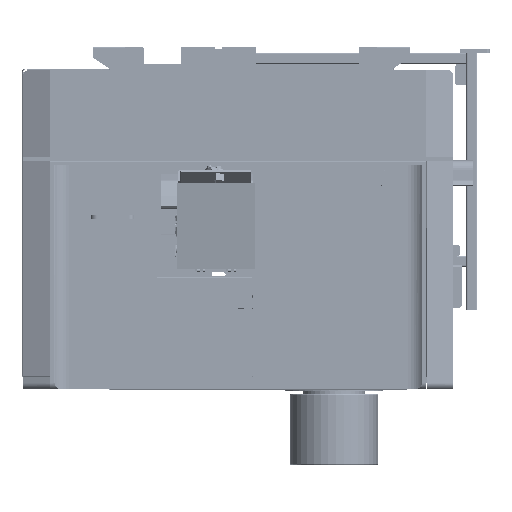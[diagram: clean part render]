
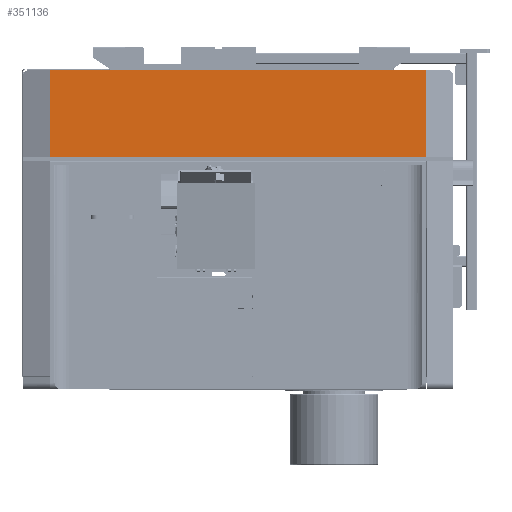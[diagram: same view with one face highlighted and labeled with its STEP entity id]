
A CAD part, left-side view. The second image highlights one B-rep face of the part: STEP entity #351136.
In plain terms, the highlighted planar face has unit normal (-1, 0, 0).
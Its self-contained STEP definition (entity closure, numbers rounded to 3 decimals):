
#6051 = AXIS2_PLACEMENT_3D ( 'NONE', #317004, #74918, #225260 ) ;
#35367 = CARTESIAN_POINT ( 'NONE',  ( -44.227, 23.17, 106.876 ) ) ;
#39056 = CARTESIAN_POINT ( 'NONE',  ( -44.227, 23.17, 106.876 ) ) ;
#51394 = CARTESIAN_POINT ( 'NONE',  ( -44.227, -45.437, 122.782 ) ) ;
#63590 = ORIENTED_EDGE ( 'NONE', *, *, #202055, .F. ) ;
#68370 = VECTOR ( 'NONE', #332251, 39.37 ) ;
#74918 = DIRECTION ( 'NONE',  ( 1., 0., 0. ) ) ;
#76894 = DIRECTION ( 'NONE',  ( 0., 1., 0. ) ) ;
#81458 = LINE ( 'NONE', #321637, #107771 ) ;
#86359 = EDGE_CURVE ( 'NONE', #371576, #150799, #256495, .T. ) ;
#98614 = ORIENTED_EDGE ( 'NONE', *, *, #369594, .F. ) ;
#107771 = VECTOR ( 'NONE', #384200, 39.37 ) ;
#140539 = EDGE_CURVE ( 'NONE', #145919, #371576, #293198, .T. ) ;
#142075 = CARTESIAN_POINT ( 'NONE',  ( -44.227, -45.422, 106.876 ) ) ;
#145919 = VERTEX_POINT ( 'NONE', #142075 ) ;
#150634 = DIRECTION ( 'NONE',  ( 0., 0., 1. ) ) ;
#150799 = VERTEX_POINT ( 'NONE', #244081 ) ;
#164832 = FACE_OUTER_BOUND ( 'NONE', #174723, .T. ) ;
#168437 = LINE ( 'NONE', #35367, #68370 ) ;
#170221 = VERTEX_POINT ( 'NONE', #39056 ) ;
#174164 = CARTESIAN_POINT ( 'NONE',  ( -44.227, -45.422, 106.876 ) ) ;
#174723 = EDGE_LOOP ( 'NONE', ( #322674, #63590, #98614, #346995 ) ) ;
#190258 = PLANE ( 'NONE',  #6051 ) ;
#202055 = EDGE_CURVE ( 'NONE', #170221, #150799, #168437, .T. ) ;
#209460 = CARTESIAN_POINT ( 'NONE',  ( -44.227, -45.422, 122.782 ) ) ;
#225260 = DIRECTION ( 'NONE',  ( 0., -1., 0. ) ) ;
#244081 = CARTESIAN_POINT ( 'NONE',  ( -44.227, 23.17, 122.782 ) ) ;
#256495 = LINE ( 'NONE', #51394, #295327 ) ;
#282859 = VECTOR ( 'NONE', #150634, 39.37 ) ;
#293198 = LINE ( 'NONE', #174164, #282859 ) ;
#295327 = VECTOR ( 'NONE', #76894, 39.37 ) ;
#317004 = CARTESIAN_POINT ( 'NONE',  ( -44.227, -45.437, 106.876 ) ) ;
#321637 = CARTESIAN_POINT ( 'NONE',  ( -44.227, -45.437, 106.876 ) ) ;
#322674 = ORIENTED_EDGE ( 'NONE', *, *, #86359, .T. ) ;
#332251 = DIRECTION ( 'NONE',  ( 0., 0., 1. ) ) ;
#346995 = ORIENTED_EDGE ( 'NONE', *, *, #140539, .T. ) ;
#351136 = ADVANCED_FACE ( 'NONE', ( #164832 ), #190258, .F. ) ;
#369594 = EDGE_CURVE ( 'NONE', #145919, #170221, #81458, .T. ) ;
#371576 = VERTEX_POINT ( 'NONE', #209460 ) ;
#384200 = DIRECTION ( 'NONE',  ( 0., 1., 0. ) ) ;
